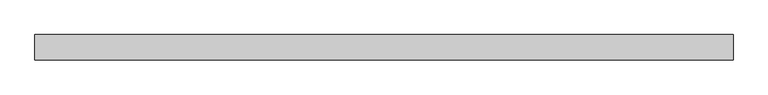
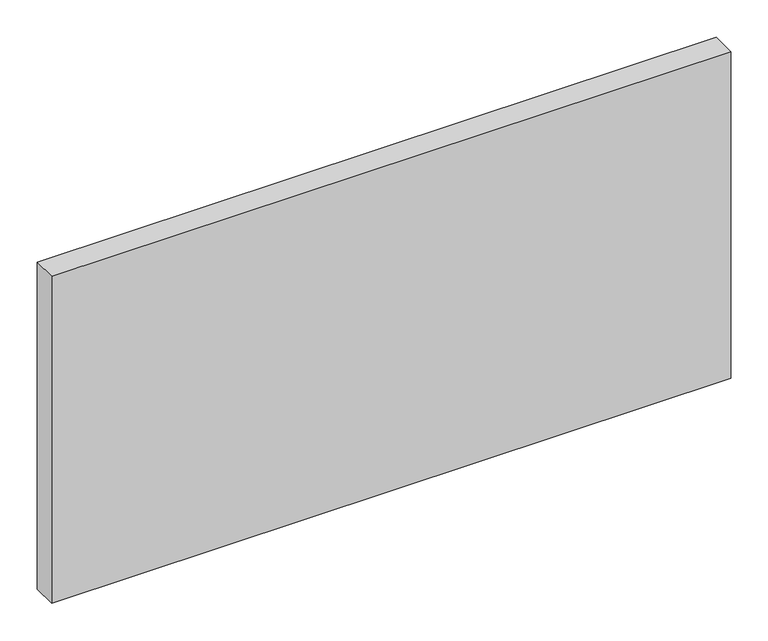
"""IFC4 building model written with IfcOpenShell, lengths in millimetres: proxy geometry, FOUNDATION^PO2_WARDROBE PLINTH-SOLID."""

from ifc_helpers import new_model, si_unit, frame, origin, place, context, project, spatial, polyline, outline, extrude, source, transform, mapped, element, save


def generic_models_cf88d30f(model_context):
    return source(origin(), model_context, "Body", "SweptSolid", [
        extrude(outline(polyline([(1047.75, 0.0), (0.0, 0.0), (0.0, 38.1), (1047.75, 38.1), (1047.75, 0.0)])), frame((0.0, 0.0, -533.4), z_axis=(0.0, 0.0, 1.0), x_axis=(1.0, 0.0, 0.0)), (0.0, 0.0, 1.0), 533.4),
    ])


if __name__ == "__main__":
    model = new_model("IFC4")
    model_context = context("Model", 3, world=origin())
    ifc_project = project(units=[si_unit("LENGTHUNIT", "METRE", prefix="MILLI")], contexts=[model_context])
    site = spatial("IfcSite", under=ifc_project)
    building = spatial("IfcBuilding", under=site)
    placement = place(None, origin())
    generic_models_shape = generic_models_cf88d30f(model_context)
    element("IfcBuildingElementProxy", 1, Name="FOUNDATION^PO2_WARDROBE PLINTH-SOLID", ObjectType="FOUNDATION^PO2_WARDROBE PLINTH-SOLID", at=placement, inside=building, context=model_context, shape_type="MappedRepresentation", body=[
        mapped(generic_models_shape, transform((0.0, 0.0, 0.0), x_axis=(1.0, 0.0, 0.0), y_axis=(0.0, 1.0, 0.0), z_axis=(0.0, 0.0, 1.0))),
    ])
    save(model, "model.ifc")
